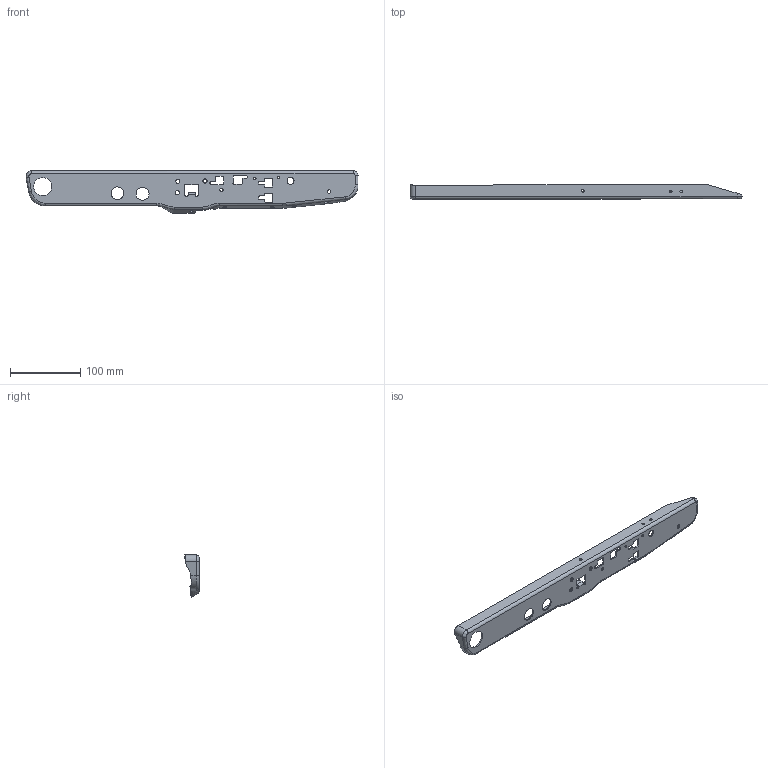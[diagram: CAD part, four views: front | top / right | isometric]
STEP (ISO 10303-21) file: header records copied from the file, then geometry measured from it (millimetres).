
FILE_DESCRIPTION(('CATIA V5 STEP Exchange'),'2;1');
FILE_NAME('C:\Users\nobody\Desktop\SQX3000-6805317_F.stp','2024-03-05T02:08:49+00:00',('none'),('none'),'CATIA Version 5 Release 20 GA (IN-10)','CATIA V5 STEP AP203 Edition 2','none');
FILE_SCHEMA(('AP203_CONFIGURATION_CONTROLLED_3D_DESIGN_OF_MECHANICAL_PARTS_AND_ASSEMBLIES_MIM_LF { 1 0 10303 403 2 1 2}'));
Length unit declared in the file: millimetre
Products named in the file (1): SQX3000-6805317
Bounding box: 472.38 x 20.32 x 60.19 mm (x, y, z)
Volume: 65644.4 mm3; surface area: 69289.1 mm2
Topology: 1 solids, 1 shells, 218 faces, 584 edges, 368 vertices
Faces by surface type: cylinder 75, bspline 69, plane 54, extrusion 20
Entity records: 10985 total; most frequent: CARTESIAN_POINT 6195, ORIENTED_EDGE 1168, DIRECTION 597, EDGE_CURVE 584, VERTEX_POINT 368, B_SPLINE_CURVE_WITH_KNOTS 271, EDGE_LOOP 266, VECTOR 252
